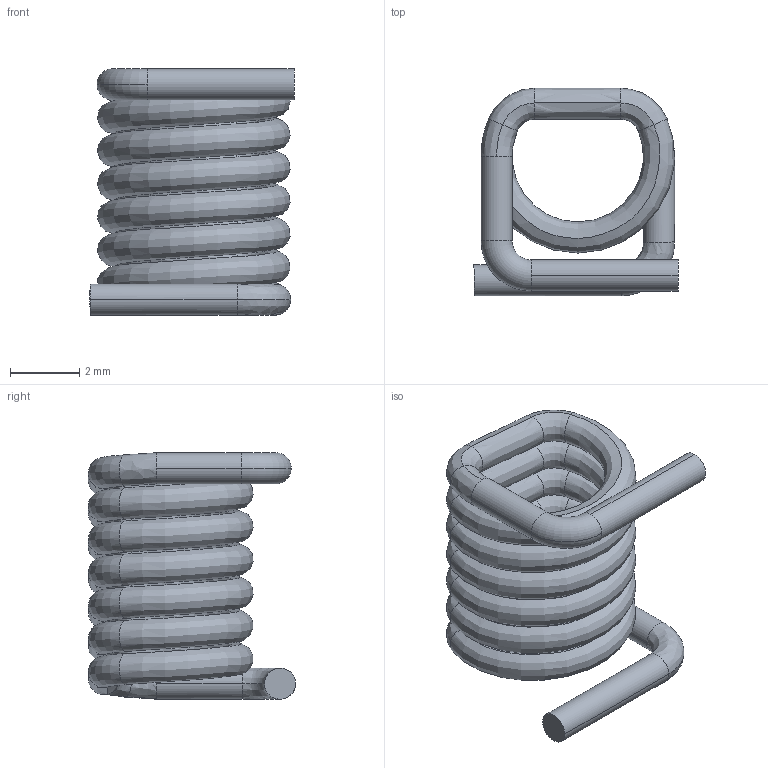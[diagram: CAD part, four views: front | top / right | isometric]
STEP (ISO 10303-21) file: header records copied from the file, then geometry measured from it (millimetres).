
FILE_DESCRIPTION (( 'STEP AP214' ), '1' );
FILE_NAME ('Coilcraft-2222SQ-111.STEP', '2018-12-29T10:47:02', ( '' ), ( '' ), 'SwSTEP 2.0', 'SolidWorks 2018', '' );
FILE_SCHEMA (( 'AUTOMOTIVE_DESIGN' ));
Length unit declared in the file: millimetre
Products named in the file (1): Coilcraft-2222SQ-111
Bounding box: 5.91 x 6 x 7.13 mm (x, y, z)
Volume: 68.7 mm3; surface area: 306.8 mm2
Topology: 1 solids, 1 shells, 72 faces, 148 edges, 78 vertices
Faces by surface type: bspline 64, cylinder 4, torus 2, plane 2
Entity records: 7180 total; most frequent: CARTESIAN_POINT 5163, ORIENTED_EDGE 296, DIRECTION 194, EDGE_CURVE 148, AXIS2_PLACEMENT_3D 93, CIRCLE 84, VERTEX_POINT 78, UNCERTAINTY_MEASURE_WITH_UNIT 75
